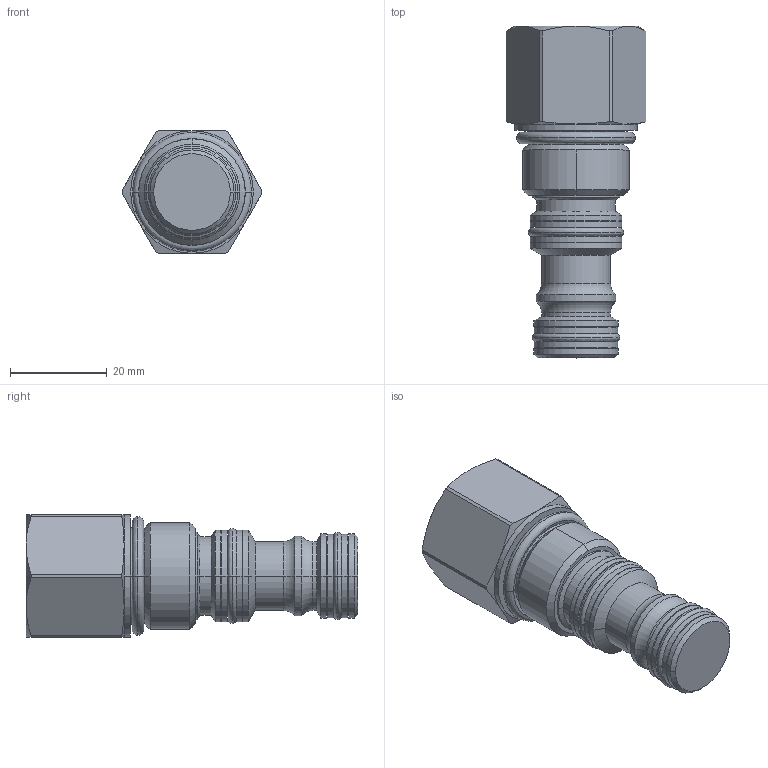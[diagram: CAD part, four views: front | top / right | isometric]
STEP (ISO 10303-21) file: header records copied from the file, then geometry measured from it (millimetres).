
FILE_DESCRIPTION((''),'2;1');
FILE_NAME('5418900_SW0001','2009-01-29T',('JCS'),(''),'PRO/ENGINEER BY PARAMETRIC TECHNOLOGY CORPORATION, 2008010','PRO/ENGINEER BY PARAMETRIC TECHNOLOGY CORPORATION, 2008010','');
FILE_SCHEMA(('CONFIG_CONTROL_DESIGN'));
Length unit declared in the file: inch
Products named in the file (1): 5418900_SW0001
Bounding box: 28.96 x 68.71 x 25.4 mm (x, y, z)
Volume: 24350.5 mm3; surface area: 8202.2 mm2
Topology: 6 solids, 6 shells, 144 faces, 300 edges, 170 vertices
Faces by surface type: cylinder 50, cone 34, revolution 24, plane 20, torus 16
Entity records: 4332 total; most frequent: CARTESIAN_POINT 1194, DIRECTION 690, ORIENTED_EDGE 600, EDGE_CURVE 300, AXIS2_PLACEMENT_3D 294, CIRCLE 174, VERTEX_POINT 170, EDGE_LOOP 156
